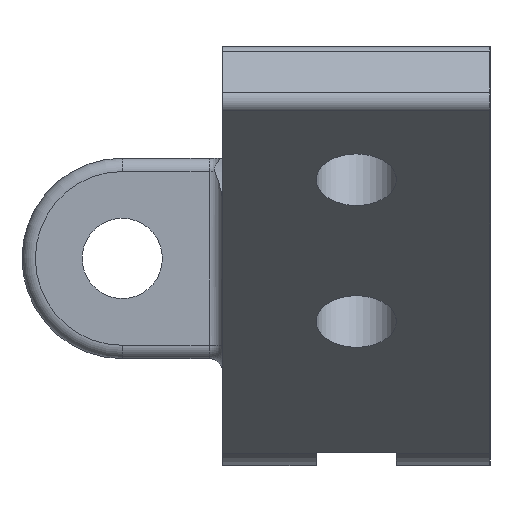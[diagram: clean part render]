
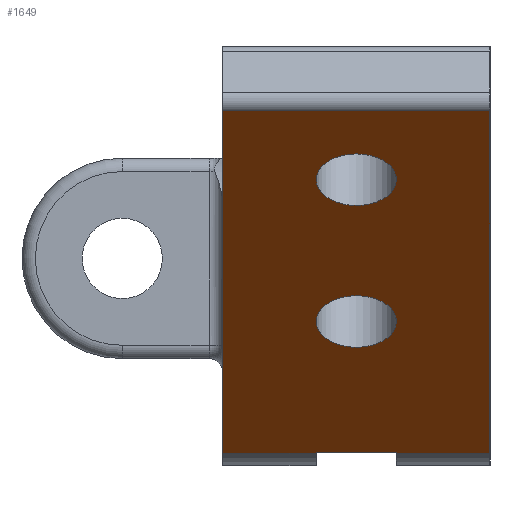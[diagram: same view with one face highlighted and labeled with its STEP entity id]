
A CAD part, left-side view. The second image highlights one B-rep face of the part: STEP entity #1649.
In plain terms, the highlighted planar face has unit normal (-0.643, 0, -0.766) as drawn and (0.643, 0, 0.766) by its records, which use the part's own axes.
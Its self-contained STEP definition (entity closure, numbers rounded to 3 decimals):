
#59=FACE_BOUND('',#296,.T.);
#60=FACE_BOUND('',#297,.T.);
#93=PLANE('',#1878);
#193=FACE_OUTER_BOUND('',#295,.T.);
#295=EDGE_LOOP('',(#1501,#1502,#1503,#1504,#1505,#1506,#1507,#1508));
#296=EDGE_LOOP('',(#1509));
#297=EDGE_LOOP('',(#1510));
#402=CIRCLE('',#1862,1.5);
#404=CIRCLE('',#1869,1.5);
#476=LINE('',#3138,#598);
#503=LINE('',#3662,#625);
#518=LINE('',#3704,#640);
#520=LINE('',#3712,#642);
#522=LINE('',#3715,#644);
#523=LINE('',#3717,#645);
#524=LINE('',#3719,#646);
#526=LINE('',#3723,#648);
#598=VECTOR('',#2173,10.);
#625=VECTOR('',#2290,10.);
#640=VECTOR('',#2331,10.);
#642=VECTOR('',#2339,10.);
#644=VECTOR('',#2343,10.);
#645=VECTOR('',#2346,10.);
#646=VECTOR('',#2349,10.);
#648=VECTOR('',#2355,10.);
#746=VERTEX_POINT('',#3135);
#747=VERTEX_POINT('',#3137);
#784=VERTEX_POINT('',#3659);
#785=VERTEX_POINT('',#3661);
#790=VERTEX_POINT('',#3673);
#797=VERTEX_POINT('',#3697);
#798=VERTEX_POINT('',#3701);
#799=VERTEX_POINT('',#3703);
#801=VERTEX_POINT('',#3709);
#802=VERTEX_POINT('',#3711);
#948=EDGE_CURVE('',#747,#746,#476,.T.);
#1009=EDGE_CURVE('',#785,#784,#503,.T.);
#1016=EDGE_CURVE('',#790,#790,#402,.T.);
#1028=EDGE_CURVE('',#797,#797,#404,.T.);
#1030=EDGE_CURVE('',#798,#799,#518,.T.);
#1034=EDGE_CURVE('',#801,#802,#520,.T.);
#1036=EDGE_CURVE('',#802,#798,#522,.T.);
#1037=EDGE_CURVE('',#801,#785,#523,.T.);
#1038=EDGE_CURVE('',#746,#799,#524,.T.);
#1040=EDGE_CURVE('',#747,#784,#526,.T.);
#1501=ORIENTED_EDGE('',*,*,#1030,.F.);
#1502=ORIENTED_EDGE('',*,*,#1036,.F.);
#1503=ORIENTED_EDGE('',*,*,#1034,.F.);
#1504=ORIENTED_EDGE('',*,*,#1037,.T.);
#1505=ORIENTED_EDGE('',*,*,#1009,.T.);
#1506=ORIENTED_EDGE('',*,*,#1040,.F.);
#1507=ORIENTED_EDGE('',*,*,#948,.T.);
#1508=ORIENTED_EDGE('',*,*,#1038,.T.);
#1509=ORIENTED_EDGE('',*,*,#1016,.F.);
#1510=ORIENTED_EDGE('',*,*,#1028,.F.);
#1649=ADVANCED_FACE('',(#193,#59,#60),#93,.F.);
#1862=AXIS2_PLACEMENT_3D('',#3675,#2302,#2303);
#1869=AXIS2_PLACEMENT_3D('',#3699,#2326,#2327);
#1878=AXIS2_PLACEMENT_3D('',#3722,#2353,#2354);
#2173=DIRECTION('',(-0.766,0.,0.643));
#2290=DIRECTION('',(0.766,0.,-0.643));
#2302=DIRECTION('center_axis',(0.643,0.,0.766));
#2303=DIRECTION('ref_axis',(0.766,0.,-0.643));
#2326=DIRECTION('center_axis',(0.643,0.,0.766));
#2327=DIRECTION('ref_axis',(0.766,0.,-0.643));
#2331=DIRECTION('',(-0.766,0.,0.643));
#2339=DIRECTION('',(0.766,0.,-0.643));
#2343=DIRECTION('',(0.,1.,0.));
#2346=DIRECTION('',(0.,-1.,0.));
#2349=DIRECTION('',(0.,-1.,0.));
#2353=DIRECTION('center_axis',(-0.643,0.,-0.766));
#2354=DIRECTION('ref_axis',(-0.766,0.,0.643));
#2355=DIRECTION('',(0.,-1.,0.));
#3135=CARTESIAN_POINT('',(17.165,5.,-19.468));
#3137=CARTESIAN_POINT('',(32.416,5.,-32.264));
#3138=CARTESIAN_POINT('',(17.165,5.,-19.468));
#3659=CARTESIAN_POINT('',(32.416,-5.,-32.264));
#3661=CARTESIAN_POINT('',(17.165,-5.,-19.468));
#3662=CARTESIAN_POINT('',(17.165,-5.,-19.468));
#3673=CARTESIAN_POINT('',(21.882,0.,-23.426));
#3675=CARTESIAN_POINT('Origin',(23.032,0.,-24.39));
#3697=CARTESIAN_POINT('',(28.202,0.,-28.729));
#3699=CARTESIAN_POINT('Origin',(29.351,0.,-29.693));
#3701=CARTESIAN_POINT('',(17.204,1.5,-19.5));
#3703=CARTESIAN_POINT('',(17.165,1.5,-19.468));
#3704=CARTESIAN_POINT('',(26.683,1.5,-27.454));
#3709=CARTESIAN_POINT('',(17.165,-1.5,-19.468));
#3711=CARTESIAN_POINT('',(17.204,-1.5,-19.5));
#3712=CARTESIAN_POINT('',(12.595,-1.5,-15.633));
#3715=CARTESIAN_POINT('',(17.204,0.,-19.5));
#3717=CARTESIAN_POINT('',(17.165,0.,-19.468));
#3719=CARTESIAN_POINT('',(17.165,0.,-19.468));
#3722=CARTESIAN_POINT('Origin',(32.416,0.,-32.264));
#3723=CARTESIAN_POINT('',(32.416,0.,-32.264));
